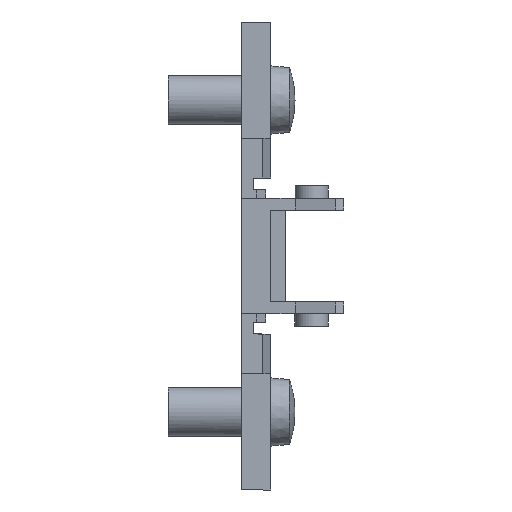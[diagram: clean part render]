
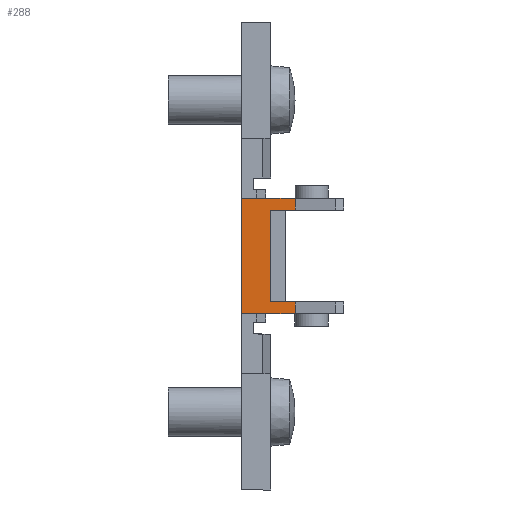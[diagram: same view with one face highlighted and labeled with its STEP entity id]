
A CAD part, front view. The second image highlights one B-rep face of the part: STEP entity #288.
In plain terms, the highlighted planar face has unit normal (0, -1, 0).
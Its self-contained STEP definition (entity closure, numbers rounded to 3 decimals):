
#18 = CARTESIAN_POINT ( 'NONE',  ( 5.523, -25.55, 4.7 ) ) ;
#20 = VERTEX_POINT ( 'NONE', #18 ) ;
#23 = VERTEX_POINT ( 'NONE', #99 ) ;
#28 = VERTEX_POINT ( 'NONE', #3261 ) ;
#32 = VERTEX_POINT ( 'NONE', #3264 ) ;
#99 = CARTESIAN_POINT ( 'NONE',  ( 5.523, -25.55, -5.9 ) ) ;
#130 = VERTEX_POINT ( 'NONE', #3337 ) ;
#144 = VERTEX_POINT ( 'NONE', #3350 ) ;
#174 = VERTEX_POINT ( 'NONE', #3380 ) ;
#216 = VERTEX_POINT ( 'NONE', #3417 ) ;
#288 = ADVANCED_FACE ( 'NONE', ( #1460 ), #3551, .T. ) ;
#452 = EDGE_CURVE ( 'NONE', #130, #20, #1604, .T. ) ;
#544 = EDGE_CURVE ( 'NONE', #32, #20, #1714, .T. ) ;
#545 = EDGE_CURVE ( 'NONE', #28, #174, #1716, .T. ) ;
#584 = EDGE_CURVE ( 'NONE', #216, #144, #1782, .T. ) ;
#608 = EDGE_CURVE ( 'NONE', #174, #23, #1818, .T. ) ;
#834 = AXIS2_PLACEMENT_3D ( 'NONE', #3545, #3553, #3554 ) ;
#976 = EDGE_CURVE ( 'NONE', #32, #216, #2231, .T. ) ;
#991 = EDGE_CURVE ( 'NONE', #130, #28, #2248, .T. ) ;
#1009 = EDGE_CURVE ( 'NONE', #144, #23, #2267, .T. ) ;
#1130 = ORIENTED_EDGE ( 'NONE', *, *, #545, .F. ) ;
#1131 = ORIENTED_EDGE ( 'NONE', *, *, #608, .F. ) ;
#1132 = ORIENTED_EDGE ( 'NONE', *, *, #1009, .T. ) ;
#1133 = ORIENTED_EDGE ( 'NONE', *, *, #584, .T. ) ;
#1134 = ORIENTED_EDGE ( 'NONE', *, *, #976, .T. ) ;
#1135 = ORIENTED_EDGE ( 'NONE', *, *, #544, .F. ) ;
#1136 = ORIENTED_EDGE ( 'NONE', *, *, #452, .T. ) ;
#1137 = ORIENTED_EDGE ( 'NONE', *, *, #991, .F. ) ;
#1460 = FACE_OUTER_BOUND ( 'NONE', #4113, .T. ) ;
#1604 = LINE ( 'NONE', #2340, #1616 ) ;
#1616 = VECTOR ( 'NONE', #2343, 1000. ) ;
#1714 = LINE ( 'NONE', #2473, #1719 ) ;
#1716 = LINE ( 'NONE', #2475, #1721 ) ;
#1719 = VECTOR ( 'NONE', #2476, 1000. ) ;
#1721 = VECTOR ( 'NONE', #2478, 1000. ) ;
#1782 = LINE ( 'NONE', #2544, #1783 ) ;
#1783 = VECTOR ( 'NONE', #2545, 1000. ) ;
#1818 = LINE ( 'NONE', #2587, #1821 ) ;
#1821 = VECTOR ( 'NONE', #2590, 1000. ) ;
#2231 = LINE ( 'NONE', #3083, #2232 ) ;
#2232 = VECTOR ( 'NONE', #3084, 1000. ) ;
#2248 = LINE ( 'NONE', #3103, #2249 ) ;
#2249 = VECTOR ( 'NONE', #3104, 1000. ) ;
#2267 = LINE ( 'NONE', #3127, #2268 ) ;
#2268 = VECTOR ( 'NONE', #3128, 1000. ) ;
#2340 = CARTESIAN_POINT ( 'NONE',  ( 10.5, -25.55, 4.7 ) ) ;
#2343 = DIRECTION ( 'NONE',  ( 1., 0., 0. ) ) ;
#2473 = CARTESIAN_POINT ( 'NONE',  ( 5.523, -25.55, 67.733 ) ) ;
#2475 = CARTESIAN_POINT ( 'NONE',  ( 10.5, -25.55, -4.7 ) ) ;
#2476 = DIRECTION ( 'NONE',  ( 0., 0., -1. ) ) ;
#2478 = DIRECTION ( 'NONE',  ( 1., 0., 0. ) ) ;
#2544 = CARTESIAN_POINT ( 'NONE',  ( 0., -25.55, 15.37 ) ) ;
#2545 = DIRECTION ( 'NONE',  ( 0., 0., -1. ) ) ;
#2587 = CARTESIAN_POINT ( 'NONE',  ( 5.523, -25.55, 67.733 ) ) ;
#2590 = DIRECTION ( 'NONE',  ( 0., 0., -1. ) ) ;
#3083 = CARTESIAN_POINT ( 'NONE',  ( 10.5, -25.55, 5.9 ) ) ;
#3084 = DIRECTION ( 'NONE',  ( -1., 0., 0. ) ) ;
#3103 = CARTESIAN_POINT ( 'NONE',  ( 3., -25.55, -5.9 ) ) ;
#3104 = DIRECTION ( 'NONE',  ( 0., 0., -1. ) ) ;
#3127 = CARTESIAN_POINT ( 'NONE',  ( 1.5, -25.55, -5.9 ) ) ;
#3128 = DIRECTION ( 'NONE',  ( 1., 0., 0. ) ) ;
#3261 = CARTESIAN_POINT ( 'NONE',  ( 3., -25.55, -4.7 ) ) ;
#3264 = CARTESIAN_POINT ( 'NONE',  ( 5.523, -25.55, 5.9 ) ) ;
#3337 = CARTESIAN_POINT ( 'NONE',  ( 3., -25.55, 4.7 ) ) ;
#3350 = CARTESIAN_POINT ( 'NONE',  ( 0., -25.55, -5.9 ) ) ;
#3380 = CARTESIAN_POINT ( 'NONE',  ( 5.523, -25.55, -4.7 ) ) ;
#3417 = CARTESIAN_POINT ( 'NONE',  ( 0., -25.55, 5.9 ) ) ;
#3545 = CARTESIAN_POINT ( 'NONE',  ( 10.5, -25.55, -5.9 ) ) ;
#3551 = PLANE ( 'NONE',  #834 ) ;
#3553 = DIRECTION ( 'NONE',  ( 0., -1., 0. ) ) ;
#3554 = DIRECTION ( 'NONE',  ( -1., 0., 0. ) ) ;
#4113 = EDGE_LOOP ( 'NONE', ( #1137, #1136, #1135, #1134, #1133, #1132, #1131, #1130 ) ) ;
